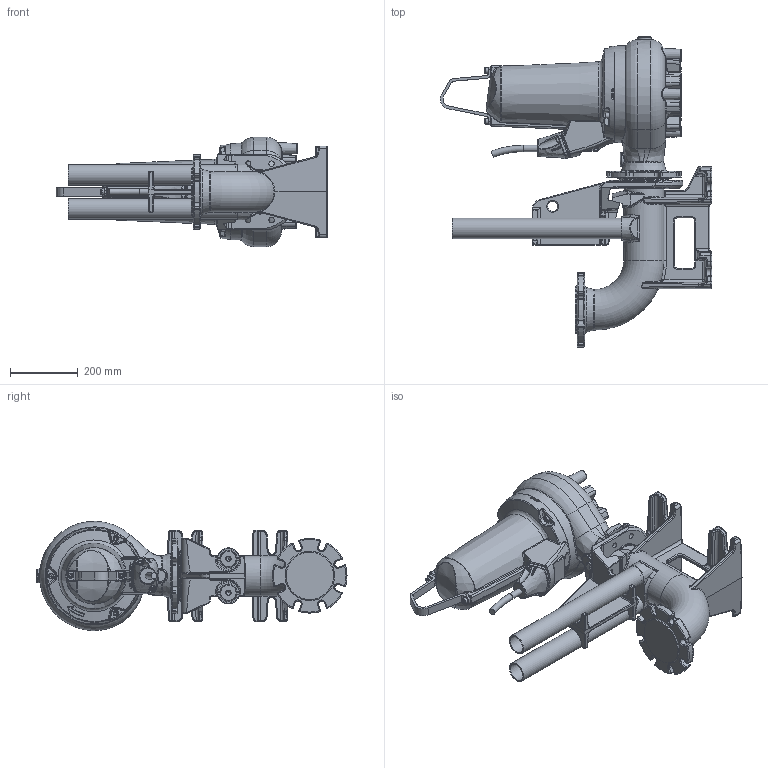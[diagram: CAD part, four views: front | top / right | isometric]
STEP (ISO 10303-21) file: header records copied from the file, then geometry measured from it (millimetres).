
FILE_DESCRIPTION (( 'STEP AP203' ), '1' );
FILE_NAME ('XFP100C-VX_PE1_Wet_Dual Rail-.step', '2024-01-16T15:24:28', ( '' ), ( '' ), 'SwSTEP 2.0', 'SolidWorks 2017', '' );
FILE_SCHEMA (( 'CONFIG_CONTROL_DESIGN' ));
Length unit declared in the file: millimetre
Products named in the file (2): XFP100C-VX_PE1_Wet_Dual Rail-
Bounding box: 800.76 x 915.13 x 322.75 mm (x, y, z)
Volume: 37822360.9 mm3; surface area: 1878334.2 mm2
Topology: 10 solids, 11 shells, 2506 faces, 5958 edges, 3388 vertices
Faces by surface type: bspline 845, cylinder 682, plane 482, torus 267, sphere 153, cone 77
Full cylindrical faces by diameter (mm): 6 x1, 6.8 x2, 8 x4, 8.8 x7, 9 x2, 10 x10, 11 x3, 13 x2, 14 x2, 16 x17, 18.7 x1, 30 x1, 40 x1, 52.5 x2, 54 x2, 60.3 x2, 120 x2, 140 x1
Entity records: 110551 total; most frequent: CARTESIAN_POINT 61053, ORIENTED_EDGE 11234, DIRECTION 8943, EDGE_CURVE 5617, AXIS2_PLACEMENT_3D 3668, VERTEX_POINT 3310, EDGE_LOOP 2719, FACE_OUTER_BOUND 2603
